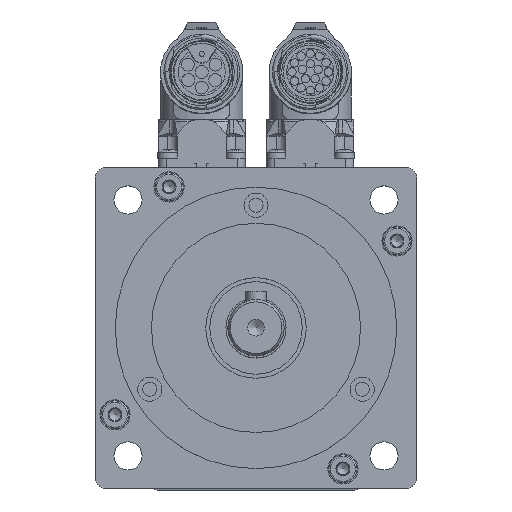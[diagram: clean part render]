
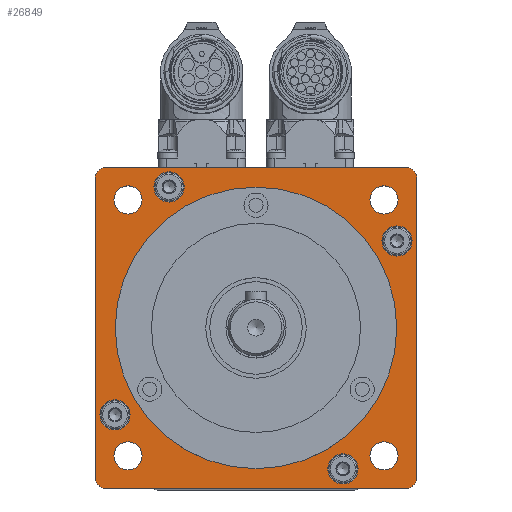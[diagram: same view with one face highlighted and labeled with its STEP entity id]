
A CAD part, top view. The second image highlights one B-rep face of the part: STEP entity #26849.
In plain terms, the highlighted planar face has unit normal (0, 0, 1).
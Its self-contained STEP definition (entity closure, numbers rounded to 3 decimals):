
#1699=FACE_BOUND('',#6876,.T.);
#1700=FACE_BOUND('',#6877,.T.);
#1701=FACE_BOUND('',#6878,.T.);
#1702=FACE_BOUND('',#6879,.T.);
#1703=FACE_BOUND('',#6880,.T.);
#1704=FACE_BOUND('',#6881,.T.);
#1705=FACE_BOUND('',#6882,.T.);
#1706=FACE_BOUND('',#6883,.T.);
#1707=FACE_BOUND('',#6884,.T.);
#1708=FACE_BOUND('',#6885,.T.);
#2853=CIRCLE('',#29613,3.75);
#2857=CIRCLE('',#29620,3.75);
#2861=CIRCLE('',#29627,3.75);
#2865=CIRCLE('',#29634,3.75);
#2868=CIRCLE('',#29639,3.5);
#2870=CIRCLE('',#29642,3.5);
#2872=CIRCLE('',#29645,3.5);
#2874=CIRCLE('',#29648,3.5);
#2876=CIRCLE('',#29651,3.);
#2881=CIRCLE('',#29659,3.);
#2882=CIRCLE('',#29662,3.);
#2883=CIRCLE('',#29665,3.);
#2884=CIRCLE('',#29668,35.);
#6876=EDGE_LOOP('',(#23199));
#6877=EDGE_LOOP('',(#23200));
#6878=EDGE_LOOP('',(#23201));
#6879=EDGE_LOOP('',(#23202));
#6880=EDGE_LOOP('',(#23203));
#6881=EDGE_LOOP('',(#23204));
#6882=EDGE_LOOP('',(#23205));
#6883=EDGE_LOOP('',(#23206));
#6884=EDGE_LOOP('',(#23207,#23208,#23209,#23210,#23211,#23212,#23213,#23214));
#6885=EDGE_LOOP('',(#23215));
#8417=LINE('',#50470,#9943);
#8423=LINE('',#50492,#9949);
#8426=LINE('',#50500,#9952);
#8428=LINE('',#50506,#9954);
#9943=VECTOR('',#36712,74.);
#9949=VECTOR('',#36734,74.);
#9952=VECTOR('',#36743,74.);
#9954=VECTOR('',#36751,74.);
#12404=VERTEX_POINT('',#50398);
#12408=VERTEX_POINT('',#50409);
#12412=VERTEX_POINT('',#50420);
#12416=VERTEX_POINT('',#50431);
#12419=VERTEX_POINT('',#50439);
#12421=VERTEX_POINT('',#50444);
#12423=VERTEX_POINT('',#50449);
#12425=VERTEX_POINT('',#50454);
#12428=VERTEX_POINT('',#50460);
#12429=VERTEX_POINT('',#50462);
#12431=VERTEX_POINT('',#50468);
#12438=VERTEX_POINT('',#50486);
#12439=VERTEX_POINT('',#50490);
#12440=VERTEX_POINT('',#50494);
#12441=VERTEX_POINT('',#50498);
#12442=VERTEX_POINT('',#50502);
#12443=VERTEX_POINT('',#50508);
#15991=EDGE_CURVE('',#12404,#12404,#2853,.T.);
#15995=EDGE_CURVE('',#12408,#12408,#2857,.T.);
#15999=EDGE_CURVE('',#12412,#12412,#2861,.T.);
#16003=EDGE_CURVE('',#12416,#12416,#2865,.T.);
#16006=EDGE_CURVE('',#12419,#12419,#2868,.T.);
#16008=EDGE_CURVE('',#12421,#12421,#2870,.T.);
#16010=EDGE_CURVE('',#12423,#12423,#2872,.T.);
#16012=EDGE_CURVE('',#12425,#12425,#2874,.T.);
#16015=EDGE_CURVE('',#12428,#12429,#2876,.T.);
#16019=EDGE_CURVE('',#12431,#12428,#8417,.T.);
#16028=EDGE_CURVE('',#12438,#12431,#2881,.T.);
#16030=EDGE_CURVE('',#12439,#12438,#8423,.T.);
#16032=EDGE_CURVE('',#12440,#12439,#2882,.T.);
#16034=EDGE_CURVE('',#12441,#12440,#8426,.T.);
#16036=EDGE_CURVE('',#12442,#12441,#2883,.T.);
#16037=EDGE_CURVE('',#12429,#12442,#8428,.T.);
#16038=EDGE_CURVE('',#12443,#12443,#2884,.T.);
#23199=ORIENTED_EDGE('',*,*,#15991,.T.);
#23200=ORIENTED_EDGE('',*,*,#15995,.T.);
#23201=ORIENTED_EDGE('',*,*,#15999,.T.);
#23202=ORIENTED_EDGE('',*,*,#16003,.T.);
#23203=ORIENTED_EDGE('',*,*,#16006,.T.);
#23204=ORIENTED_EDGE('',*,*,#16008,.T.);
#23205=ORIENTED_EDGE('',*,*,#16010,.T.);
#23206=ORIENTED_EDGE('',*,*,#16012,.T.);
#23207=ORIENTED_EDGE('',*,*,#16015,.F.);
#23208=ORIENTED_EDGE('',*,*,#16019,.F.);
#23209=ORIENTED_EDGE('',*,*,#16028,.F.);
#23210=ORIENTED_EDGE('',*,*,#16030,.F.);
#23211=ORIENTED_EDGE('',*,*,#16032,.F.);
#23212=ORIENTED_EDGE('',*,*,#16034,.F.);
#23213=ORIENTED_EDGE('',*,*,#16036,.F.);
#23214=ORIENTED_EDGE('',*,*,#16037,.F.);
#23215=ORIENTED_EDGE('',*,*,#16038,.F.);
#23904=PLANE('',#29667);
#26849=ADVANCED_FACE('',(#1699,#1700,#1701,#1702,#1703,#1704,#1705,#1706,
#1707,#1708),#23904,.T.);
#29613=AXIS2_PLACEMENT_3D('',#50399,#36628,#36629);
#29620=AXIS2_PLACEMENT_3D('',#50410,#36642,#36643);
#29627=AXIS2_PLACEMENT_3D('',#50421,#36656,#36657);
#29634=AXIS2_PLACEMENT_3D('',#50432,#36670,#36671);
#29639=AXIS2_PLACEMENT_3D('',#50440,#36680,#36681);
#29642=AXIS2_PLACEMENT_3D('',#50445,#36686,#36687);
#29645=AXIS2_PLACEMENT_3D('',#50450,#36692,#36693);
#29648=AXIS2_PLACEMENT_3D('',#50455,#36698,#36699);
#29651=AXIS2_PLACEMENT_3D('',#50463,#36705,#36706);
#29659=AXIS2_PLACEMENT_3D('',#50488,#36729,#36730);
#29662=AXIS2_PLACEMENT_3D('',#50496,#36738,#36739);
#29665=AXIS2_PLACEMENT_3D('',#50504,#36747,#36748);
#29667=AXIS2_PLACEMENT_3D('',#50507,#36752,#36753);
#29668=AXIS2_PLACEMENT_3D('',#50509,#36754,#36755);
#36628=DIRECTION('center_axis',(0.,0.,-1.));
#36629=DIRECTION('ref_axis',(0.,-1.,0.));
#36642=DIRECTION('center_axis',(0.,0.,-1.));
#36643=DIRECTION('ref_axis',(-1.,0.,0.));
#36656=DIRECTION('center_axis',(0.,0.,-1.));
#36657=DIRECTION('ref_axis',(0.,1.,0.));
#36670=DIRECTION('center_axis',(0.,0.,-1.));
#36671=DIRECTION('ref_axis',(1.,0.,0.));
#36680=DIRECTION('center_axis',(0.,0.,-1.));
#36681=DIRECTION('ref_axis',(0.,-1.,0.));
#36686=DIRECTION('center_axis',(0.,0.,-1.));
#36687=DIRECTION('ref_axis',(-1.,0.,0.));
#36692=DIRECTION('center_axis',(0.,0.,-1.));
#36693=DIRECTION('ref_axis',(0.,1.,0.));
#36698=DIRECTION('center_axis',(0.,0.,-1.));
#36699=DIRECTION('ref_axis',(1.,0.,0.));
#36705=DIRECTION('center_axis',(0.,0.,-1.));
#36706=DIRECTION('ref_axis',(-0.707,-0.707,0.));
#36712=DIRECTION('',(-1.,0.,0.));
#36729=DIRECTION('center_axis',(0.,0.,-1.));
#36730=DIRECTION('ref_axis',(0.707,-0.707,0.));
#36734=DIRECTION('',(0.,-1.,0.));
#36738=DIRECTION('center_axis',(0.,0.,-1.));
#36739=DIRECTION('ref_axis',(0.707,0.707,0.));
#36743=DIRECTION('',(1.,0.,0.));
#36747=DIRECTION('center_axis',(0.,0.,-1.));
#36748=DIRECTION('ref_axis',(-0.707,0.707,0.));
#36751=DIRECTION('',(0.,1.,0.));
#36752=DIRECTION('center_axis',(0.,0.,1.));
#36753=DIRECTION('ref_axis',(0.,-1.,0.));
#36754=DIRECTION('center_axis',(0.,0.,1.));
#36755=DIRECTION('ref_axis',(1.,0.,0.));
#50398=CARTESIAN_POINT('',(21.617,-38.806,8.5));
#50399=CARTESIAN_POINT('Origin',(21.617,-35.056,8.5));
#50409=CARTESIAN_POINT('',(-38.806,-21.617,8.5));
#50410=CARTESIAN_POINT('Origin',(-35.056,-21.617,8.5));
#50420=CARTESIAN_POINT('',(-21.617,38.806,8.5));
#50421=CARTESIAN_POINT('Origin',(-21.617,35.056,8.5));
#50431=CARTESIAN_POINT('',(38.806,21.617,8.5));
#50432=CARTESIAN_POINT('Origin',(35.056,21.617,8.5));
#50439=CARTESIAN_POINT('',(31.82,28.32,8.5));
#50440=CARTESIAN_POINT('Origin',(31.82,31.82,8.5));
#50444=CARTESIAN_POINT('',(28.32,-31.82,8.5));
#50445=CARTESIAN_POINT('Origin',(31.82,-31.82,8.5));
#50449=CARTESIAN_POINT('',(-31.82,-28.32,8.5));
#50450=CARTESIAN_POINT('Origin',(-31.82,-31.82,8.5));
#50454=CARTESIAN_POINT('',(-28.32,31.82,8.5));
#50455=CARTESIAN_POINT('Origin',(-31.82,31.82,8.5));
#50460=CARTESIAN_POINT('',(-37.,-40.,8.5));
#50462=CARTESIAN_POINT('',(-40.,-37.,8.5));
#50463=CARTESIAN_POINT('Origin',(-37.,-37.,8.5));
#50468=CARTESIAN_POINT('',(37.,-40.,8.5));
#50470=CARTESIAN_POINT('',(40.,-40.,8.5));
#50486=CARTESIAN_POINT('',(40.,-37.,8.5));
#50488=CARTESIAN_POINT('Origin',(37.,-37.,8.5));
#50490=CARTESIAN_POINT('',(40.,37.,8.5));
#50492=CARTESIAN_POINT('',(40.,40.,8.5));
#50494=CARTESIAN_POINT('',(37.,40.,8.5));
#50496=CARTESIAN_POINT('Origin',(37.,37.,8.5));
#50498=CARTESIAN_POINT('',(-37.,40.,8.5));
#50500=CARTESIAN_POINT('',(-40.,40.,8.5));
#50502=CARTESIAN_POINT('',(-40.,37.,8.5));
#50504=CARTESIAN_POINT('Origin',(-37.,37.,8.5));
#50506=CARTESIAN_POINT('',(-40.,-40.,8.5));
#50507=CARTESIAN_POINT('Origin',(0.,-35.,8.5));
#50508=CARTESIAN_POINT('',(0.,-35.,8.5));
#50509=CARTESIAN_POINT('Origin',(0.,0.,8.5));
